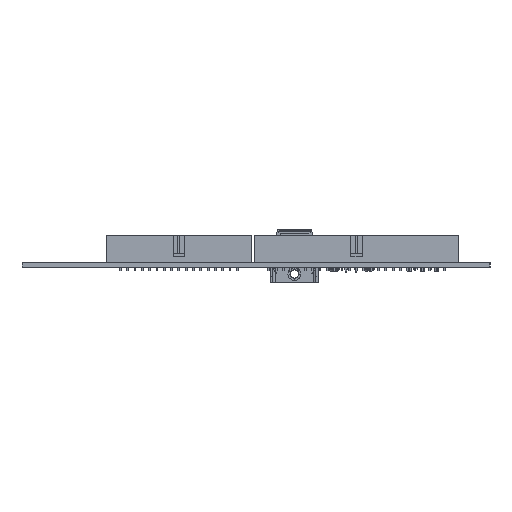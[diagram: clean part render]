
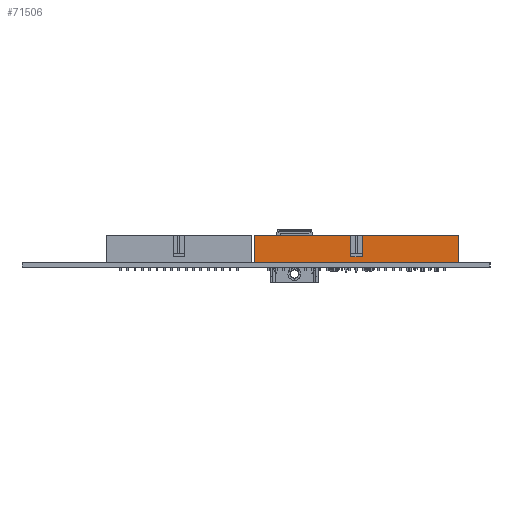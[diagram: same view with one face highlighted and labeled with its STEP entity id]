
A CAD part, left-side view. The second image highlights one B-rep face of the part: STEP entity #71506.
In plain terms, the highlighted planar face has unit normal (-1, 0, 0).
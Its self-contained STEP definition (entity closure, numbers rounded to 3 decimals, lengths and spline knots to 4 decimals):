
#9217=DIRECTION('',(0.,-1.,0.));
#9218=VECTOR('',#9217,2.79);
#9219=CARTESIAN_POINT('',(-2.82,0.02,0.062));
#9220=LINE('',#9219,#9218);
#20664=DIRECTION('',(0.,0.,1.));
#20665=VECTOR('',#20664,0.37);
#20666=CARTESIAN_POINT('',(-2.82,-2.77,0.062));
#20667=LINE('',#20666,#20665);
#20668=DIRECTION('',(0.,0.,1.));
#20669=VECTOR('',#20668,0.37);
#20670=CARTESIAN_POINT('',(-2.82,0.02,0.062));
#20671=LINE('',#20670,#20669);
#20672=DIRECTION('',(0.,0.,-1.));
#20673=VECTOR('',#20672,0.29);
#20674=CARTESIAN_POINT('',(-2.82,-1.295,0.432));
#20675=LINE('',#20674,#20673);
#20676=DIRECTION('',(0.,-1.,0.));
#20677=VECTOR('',#20676,0.16);
#20678=CARTESIAN_POINT('',(-2.82,-1.295,0.142));
#20679=LINE('',#20678,#20677);
#20680=DIRECTION('',(0.,0.,-1.));
#20681=VECTOR('',#20680,0.29);
#20682=CARTESIAN_POINT('',(-2.82,-1.455,0.432));
#20683=LINE('',#20682,#20681);
#20696=DIRECTION('',(0.,-1.,0.));
#20697=VECTOR('',#20696,1.315);
#20698=CARTESIAN_POINT('',(-2.82,0.02,0.432));
#20699=LINE('',#20698,#20697);
#20712=DIRECTION('',(0.,-1.,0.));
#20713=VECTOR('',#20712,1.315);
#20714=CARTESIAN_POINT('',(-2.82,-1.455,0.432));
#20715=LINE('',#20714,#20713);
#40497=CARTESIAN_POINT('',(-2.82,-2.77,0.432));
#40499=VERTEX_POINT('',#40497);
#40503=CARTESIAN_POINT('',(-2.82,0.02,0.432));
#40504=VERTEX_POINT('',#40503);
#40525=CARTESIAN_POINT('',(-2.82,-1.295,0.432));
#40527=VERTEX_POINT('',#40525);
#40529=CARTESIAN_POINT('',(-2.82,-1.455,0.432));
#40531=VERTEX_POINT('',#40529);
#40533=CARTESIAN_POINT('',(-2.82,-1.295,0.142));
#40534=VERTEX_POINT('',#40533);
#40535=CARTESIAN_POINT('',(-2.82,-1.455,0.142));
#40536=VERTEX_POINT('',#40535);
#42945=CARTESIAN_POINT('',(-2.82,-2.77,0.062));
#42947=VERTEX_POINT('',#42945);
#42951=CARTESIAN_POINT('',(-2.82,0.02,0.062));
#42952=VERTEX_POINT('',#42951);
#71485=CARTESIAN_POINT('',(-2.82,0.02,0.062));
#71486=DIRECTION('',(-1.,0.,0.));
#71487=DIRECTION('',(0.,-1.,0.));
#71488=AXIS2_PLACEMENT_3D('',#71485,#71486,#71487);
#71489=PLANE('',#71488);
#71490=ORIENTED_EDGE('',*,*,#51908,.F.);
#71492=ORIENTED_EDGE('',*,*,#71491,.T.);
#71494=ORIENTED_EDGE('',*,*,#71493,.T.);
#71496=ORIENTED_EDGE('',*,*,#71495,.T.);
#71498=ORIENTED_EDGE('',*,*,#71497,.T.);
#71500=ORIENTED_EDGE('',*,*,#71499,.F.);
#71502=ORIENTED_EDGE('',*,*,#71501,.T.);
#71503=ORIENTED_EDGE('',*,*,#71476,.F.);
#71504=EDGE_LOOP('',(#71490,#71492,#71494,#71496,#71498,#71500,#71502,#71503));
#71505=FACE_OUTER_BOUND('',#71504,.F.);
#71506=ADVANCED_FACE('',(#71505),#71489,.T.);
#51908=EDGE_CURVE('',#42952,#42947,#9220,.T.);
#71476=EDGE_CURVE('',#42947,#40499,#20667,.T.);
#71491=EDGE_CURVE('',#42952,#40504,#20671,.T.);
#71493=EDGE_CURVE('',#40504,#40527,#20699,.T.);
#71495=EDGE_CURVE('',#40527,#40534,#20675,.T.);
#71497=EDGE_CURVE('',#40534,#40536,#20679,.T.);
#71499=EDGE_CURVE('',#40531,#40536,#20683,.T.);
#71501=EDGE_CURVE('',#40531,#40499,#20715,.T.);
